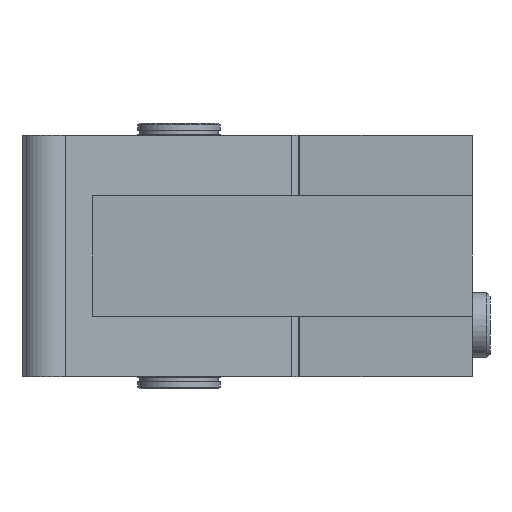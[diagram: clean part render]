
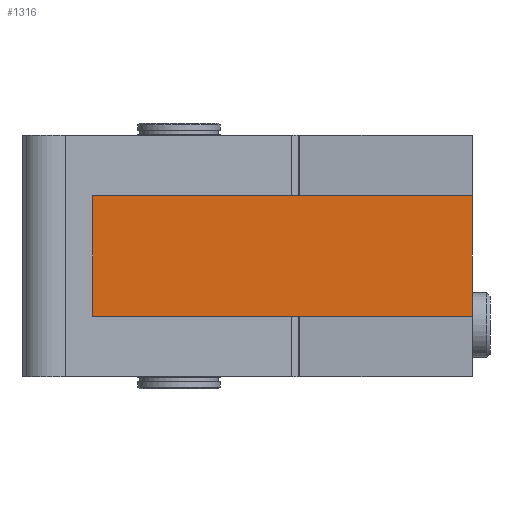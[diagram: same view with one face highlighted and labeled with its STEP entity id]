
A CAD part, front view. The second image highlights one B-rep face of the part: STEP entity #1316.
In plain terms, the highlighted planar face has unit normal (0, -1, 0).
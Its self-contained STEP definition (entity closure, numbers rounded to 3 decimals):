
#59=PLANE('',#1457);
#123=FACE_OUTER_BOUND('',#196,.T.);
#196=EDGE_LOOP('',(#1131,#1132,#1133,#1134));
#269=LINE('',#2054,#394);
#312=LINE('',#2159,#437);
#322=LINE('',#2181,#447);
#326=LINE('',#2191,#451);
#394=VECTOR('',#1684,10.);
#437=VECTOR('',#1781,10.);
#447=VECTOR('',#1801,10.);
#451=VECTOR('',#1811,10.);
#588=VERTEX_POINT('',#2051);
#589=VERTEX_POINT('',#2053);
#624=VERTEX_POINT('',#2158);
#631=VERTEX_POINT('',#2180);
#739=EDGE_CURVE('',#588,#589,#269,.T.);
#791=EDGE_CURVE('',#624,#589,#312,.T.);
#803=EDGE_CURVE('',#631,#624,#322,.T.);
#809=EDGE_CURVE('',#588,#631,#326,.T.);
#1131=ORIENTED_EDGE('',*,*,#791,.T.);
#1132=ORIENTED_EDGE('',*,*,#739,.F.);
#1133=ORIENTED_EDGE('',*,*,#809,.T.);
#1134=ORIENTED_EDGE('',*,*,#803,.T.);
#1316=ADVANCED_FACE('',(#123),#59,.T.);
#1457=AXIS2_PLACEMENT_3D('',#2190,#1809,#1810);
#1684=DIRECTION('',(0.,0.,1.));
#1781=DIRECTION('',(-1.,0.,0.));
#1801=DIRECTION('',(0.,0.,1.));
#1809=DIRECTION('center_axis',(0.,-1.,0.));
#1810=DIRECTION('ref_axis',(0.,0.,-1.));
#1811=DIRECTION('',(1.,0.,0.));
#2051=CARTESIAN_POINT('',(-55.,-57.,-17.5));
#2053=CARTESIAN_POINT('',(-55.,-57.,17.5));
#2054=CARTESIAN_POINT('',(-55.,-57.,0.));
#2158=CARTESIAN_POINT('',(55.,-57.,17.5));
#2159=CARTESIAN_POINT('',(27.5,-57.,17.5));
#2180=CARTESIAN_POINT('',(55.,-57.,-17.5));
#2181=CARTESIAN_POINT('',(55.,-57.,0.));
#2190=CARTESIAN_POINT('Origin',(55.,-57.,0.));
#2191=CARTESIAN_POINT('',(27.5,-57.,-17.5));
